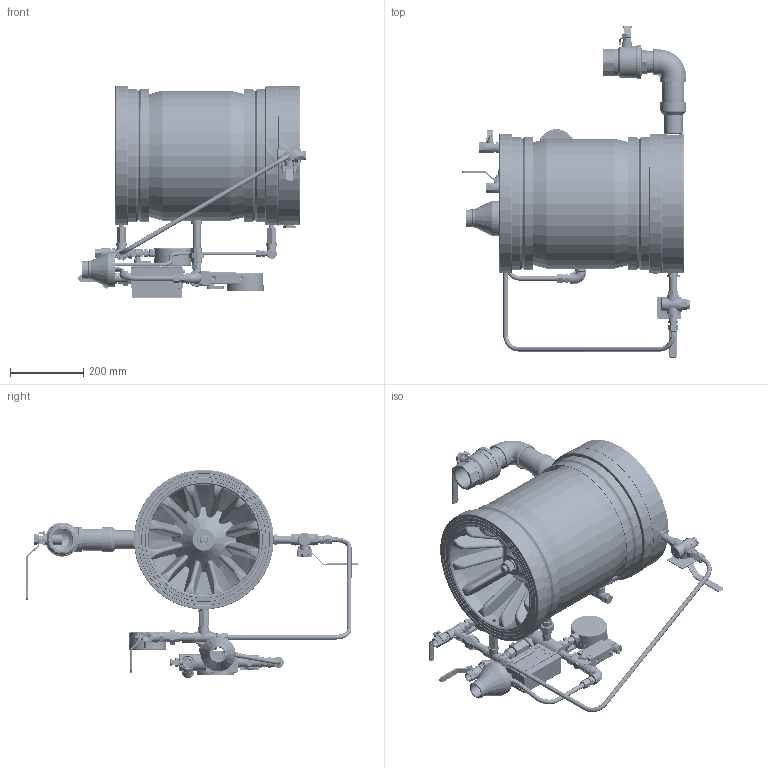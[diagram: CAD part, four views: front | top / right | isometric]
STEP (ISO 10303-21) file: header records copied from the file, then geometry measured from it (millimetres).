
FILE_DESCRIPTION(/* description */ (''),/* implementation_level */ '2;1');
FILE_NAME(/* name */ 'Z:\STANDARD SYSTEM\700DX-03C06\Step\799DX-03C06 FM UL Trim 12in.stp',/* time_stamp */ '2022-03-08T09:51:19+02:00',/* author */ ('alex'),/* organization */ (''),/* preprocessor_version */ 'ST-DEVELOPER v16.13',/* originating_system */ 'Autodesk Inventor 2018',/* authorisation */ '');
FILE_SCHEMA (('AUTOMOTIVE_DESIGN { 1 0 10303 214 3 1 1 }'));
Length unit declared in the file: millimetre
Products named in the file (127): 799DX-03C06 FM UL Trim 12in; Plug 34 SS; 5840; 799DX_12in; 799D-12; 3190_STEEL; 4184; 4746; 4658-; 4518; 4517; 4435; 4430_STEEL; 3298; 4105; GASKET12; 351-32-02; BODY_351-32-02; HANDLE_351-32-02; HANDLE_COVER_351-32-02; ANSI B18.2.2 - 5/8 - 11; Elbow 2FxF SS; Nipple 2x82 SS; 3611-1; 3612-1; 5332; Solenoid-157 Assy; 157-61X; 157-61X Body; 151-7X; BODY BURKERT; BURKERT 330 COIL; BURKERT BUSH BUTTON; BURKERT CONDUIT; ISO 1207 - M 3 x 30; ISO 1207 - M 4 x 40; O'RING INCH; Q2611 - 1; Nipple 12x3,5 SS; 5375T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
Assembly tree (165 placements, depth 5):
  799DX-03C06 FM UL Trim 12in
    Plug 34 SS
    Plug 12 SS  x3
    5840
    799DX_12in
      799D-12
        3190_STEEL  x2
        4184
        4746  x2
        4658-
        4518  x2
        4517  x2
        4435
        4430_STEEL
        3298
        4105
      GASKET12
      351-32-02
        BODY_351-32-02
        HANDLE_351-32-02
        HANDLE_COVER_351-32-02
        ANSI B18.2.2 - 5/8 - 11
      Elbow 2FxF SS
      Nipple 2x82 SS
      3611-1
        3612-1
        5332
    Solenoid-157 Assy
      Nipple 12x2.5 SS
      157-61X
        157-61X Body
        151-7X
          BODY BURKERT
          BURKERT 330 COIL
          BURKERT BUSH BUTTON
          BURKERT CONDUIT
          ISO 1207 - M 3 x 30
          ISO 1207 - M 4 x 40  x4
    Q2611 - 1
    Nipple 12x3,5 SS
    5375T
    31-08-01
      BODY
      COVER_31-08-01
    6244-1
      6245-1
      0-RING Ø12xØ3
      DIN 472 - 18 x 1
      BALL OD14mm
      5214_
      6246
      6318
      0-RING2112
    Nipple 12 hex SS  x5
    Union 12 SS  x3
      Half Union 12M SS
      Half Union 12F SS
      Half Union F
    2072
      2073 rev01
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Bounding box: 622.28 x 904.68 x 579.32 mm (x, y, z)
Volume: 20886239.1 mm3; surface area: 4074842.2 mm2
Topology: 152 solids, 153 shells, 5011 faces, 12057 edges, 7503 vertices
Faces by surface type: plane 2415, cylinder 1022, cone 980, bspline 443, torus 144, sphere 7
Full cylindrical faces by diameter (mm): 0.625 x1, 2 x4, 2.693 x1, 3 x6, 3.242 x10, 3.571 x4, 4 x16, 4.1 x2, 4.134 x8, 4.5 x2, 4.978 x2, 5 x15, 5.25 x2, 5.5 x5, 5.8 x4, 6 x2, 6.33 x4, 6.35 x2, 6.4 x4, 6.5 x2, 6.647 x1, 6.88 x2, 7 x9, 7.036 x3, 7.3 x1, 7.5 x2, 7.515 x4, 7.6 x2, 7.715 x4, 8 x5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
Entity records: 118154 total; most frequent: CARTESIAN_POINT 32869, ORIENTED_EDGE 16306, DIRECTION 16169, EDGE_CURVE 8135, AXIS2_PLACEMENT_3D 5985, VERTEX_POINT 5468, EDGE_LOOP 4801, LINE 4199
